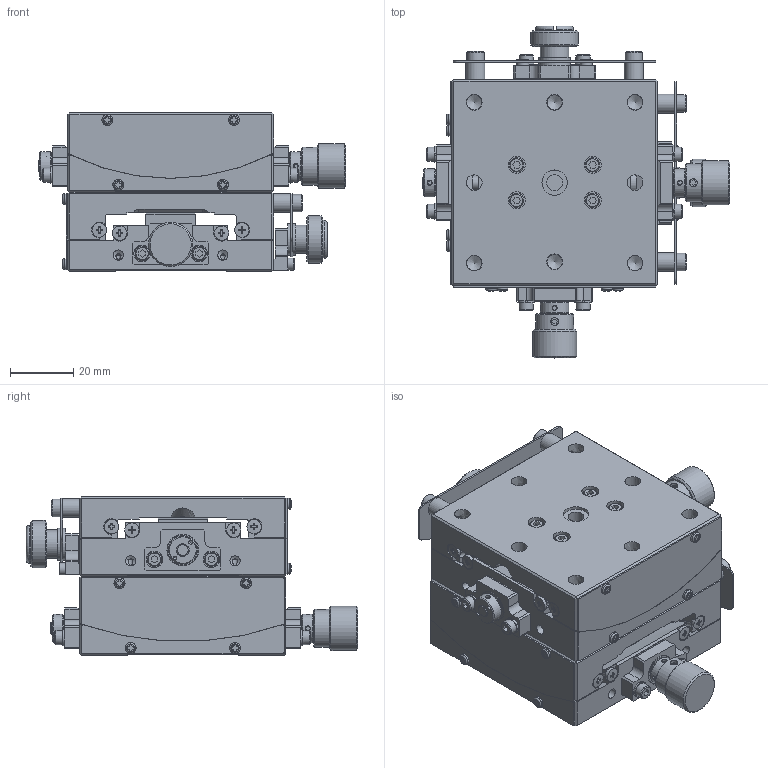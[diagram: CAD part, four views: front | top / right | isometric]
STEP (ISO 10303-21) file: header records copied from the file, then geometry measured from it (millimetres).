
FILE_DESCRIPTION((''),'2;1');
FILE_NAME('Y:\3DDATA\2_OpticalHard\02_海外製品\1_Stags\GOHT\□65\GOHT-65B50BUU\GOHT-65B50BUU.stp','2014-04-09T11:42:09',('usernoto011'),(''),'Autodesk Inventor 2008','Autodesk Inventor 2008','');
FILE_SCHEMA(('AUTOMOTIVE_DESIGN { 1 0 10303 214 1 1 1 1 }'));
Length unit declared in the file: millimetre
Products named in the file (4): GOHT65B50BUU-M02-08001-S17; GOHT65B50BUU-M02-08001-S15; GOHT65B50BUU-M02-08001-S16; GOHT65B50BUU-M02-08001-S12
Assembly tree (3 placements, depth 2):
  GOHT65B50BUU-M02-08001-S17
    GOHT65B50BUU-M02-08001-S15
    GOHT65B50BUU-M02-08001-S16
    GOHT65B50BUU-M02-08001-S12
Bounding box: 97.1 x 104.8 x 50 mm (x, y, z)
Volume: 177268.5 mm3; surface area: 81765.5 mm2
Topology: 3 solids, 94 shells, 2227 faces, 5507 edges, 3584 vertices
Faces by surface type: plane 1226, bspline 432, cylinder 363, cone 132, torus 50, sphere 24
Full cylindrical faces by diameter (mm): 1.5 x16, 2 x12, 2.459 x4, 2.5 x16, 3 x6, 3.8 x4, 4 x13, 4.2 x4, 4.5 x32, 5.2 x2, 5.5 x4, 5.8 x4, 5.92 x16, 6 x4, 6.35 x4, 6.9 x4, 7 x8, 8 x6, 8.08 x8, 8.484 x8, 9 x6, 9.52 x4, 10 x4, 12 x10, 14 x2, 15 x2
Entity records: 70418 total; most frequent: CARTESIAN_POINT 23427, DIRECTION 9386, ORIENTED_EDGE 8814, EDGE_CURVE 4407, AXIS2_PLACEMENT_3D 3523, EDGE_LOOP 3274, VERTEX_POINT 3193, VECTOR 2340
